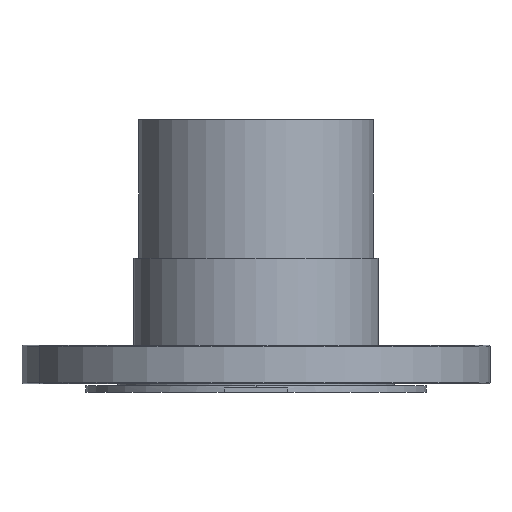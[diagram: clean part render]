
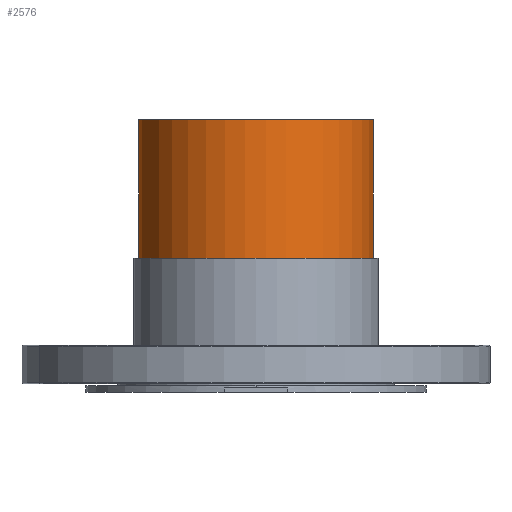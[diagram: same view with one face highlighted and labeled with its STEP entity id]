
A CAD part, front view. The second image highlights one B-rep face of the part: STEP entity #2576.
In plain terms, the highlighted cylindrical face has radius 55.25 mm (diameter 110.5 mm), a partial arc.
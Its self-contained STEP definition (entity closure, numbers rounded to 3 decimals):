
#18 = VERTEX_POINT ( 'NONE', #2722 ) ;
#19 = VERTEX_POINT ( 'NONE', #2723 ) ;
#410 = VECTOR ( 'NONE', #1245, 1000. ) ;
#416 = VERTEX_POINT ( 'NONE', #2768 ) ;
#417 = VERTEX_POINT ( 'NONE', #2769 ) ;
#760 = AXIS2_PLACEMENT_3D ( 'NONE', #2296, #2321, #2322 ) ;
#789 = CIRCLE ( 'NONE', #794, 55.25 ) ;
#794 = AXIS2_PLACEMENT_3D ( 'NONE', #2188, #2189, #2190 ) ;
#825 = CIRCLE ( 'NONE', #828, 55.25 ) ;
#828 = AXIS2_PLACEMENT_3D ( 'NONE', #1026, #1027, #1028 ) ;
#853 = VECTOR ( 'NONE', #1076, 1000. ) ;
#1026 = CARTESIAN_POINT ( 'NONE',  ( -48.564, 17.071, 117.758 ) ) ;
#1027 = DIRECTION ( 'NONE',  ( 0., 0., 1. ) ) ;
#1028 = DIRECTION ( 'NONE',  ( 0.996, -0.092, 0. ) ) ;
#1067 = LINE ( 'NONE', #1068, #853 ) ;
#1068 = CARTESIAN_POINT ( 'NONE',  ( -103.58, 22.16, 117.758 ) ) ;
#1076 = DIRECTION ( 'NONE',  ( 0., 0., -1. ) ) ;
#1243 = LINE ( 'NONE', #1244, #410 ) ;
#1244 = CARTESIAN_POINT ( 'NONE',  ( 6.451, 11.982, 117.758 ) ) ;
#1245 = DIRECTION ( 'NONE',  ( 0., 0., -1. ) ) ;
#1698 = EDGE_LOOP ( 'NONE', ( #2327, #2903, #2902, #2901 ) ) ;
#1788 = EDGE_CURVE ( 'NONE', #417, #19, #1243, .T. ) ;
#2188 = CARTESIAN_POINT ( 'NONE',  ( -48.564, 17.071, 2.758 ) ) ;
#2189 = DIRECTION ( 'NONE',  ( 0., 0., 1. ) ) ;
#2190 = DIRECTION ( 'NONE',  ( 0.996, -0.092, 0. ) ) ;
#2296 = CARTESIAN_POINT ( 'NONE',  ( -48.564, 17.071, 117.758 ) ) ;
#2310 = CYLINDRICAL_SURFACE ( 'NONE', #760, 55.25 ) ;
#2311 = FACE_OUTER_BOUND ( 'NONE', #1698, .T. ) ;
#2321 = DIRECTION ( 'NONE',  ( 0., 0., -1. ) ) ;
#2322 = DIRECTION ( 'NONE',  ( -0.996, 0.092, 0. ) ) ;
#2327 = ORIENTED_EDGE ( 'NONE', *, *, #1788, .F. ) ;
#2576 = ADVANCED_FACE ( 'NONE', ( #2311 ), #2310, .T. ) ;
#2597 = EDGE_CURVE ( 'NONE', #18, #19, #789, .T. ) ;
#2614 = EDGE_CURVE ( 'NONE', #416, #417, #825, .T. ) ;
#2630 = EDGE_CURVE ( 'NONE', #416, #18, #1067, .T. ) ;
#2722 = CARTESIAN_POINT ( 'NONE',  ( -103.58, 22.16, 2.758 ) ) ;
#2723 = CARTESIAN_POINT ( 'NONE',  ( 6.451, 11.982, 2.758 ) ) ;
#2768 = CARTESIAN_POINT ( 'NONE',  ( -103.58, 22.16, 117.758 ) ) ;
#2769 = CARTESIAN_POINT ( 'NONE',  ( 6.451, 11.982, 117.758 ) ) ;
#2901 = ORIENTED_EDGE ( 'NONE', *, *, #2597, .T. ) ;
#2902 = ORIENTED_EDGE ( 'NONE', *, *, #2630, .T. ) ;
#2903 = ORIENTED_EDGE ( 'NONE', *, *, #2614, .F. ) ;
